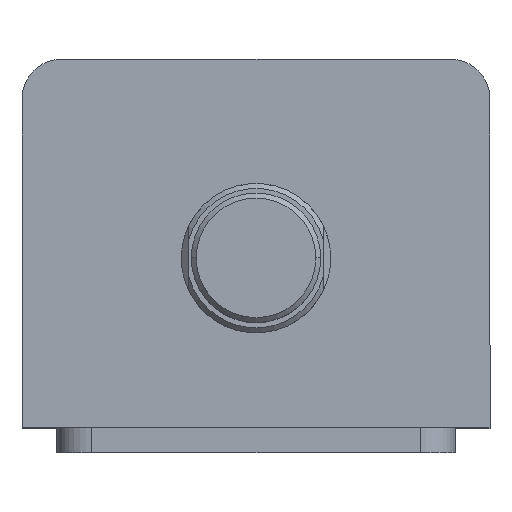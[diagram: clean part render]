
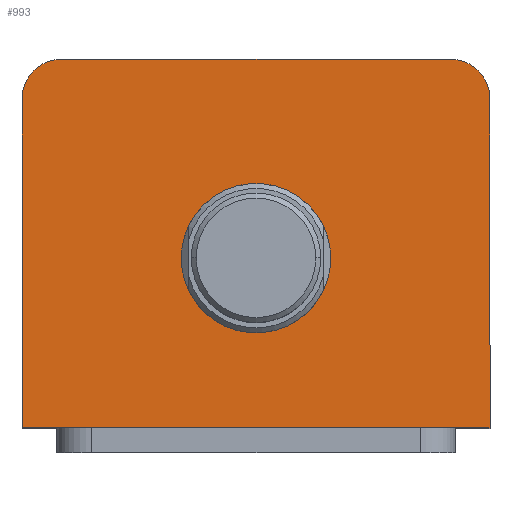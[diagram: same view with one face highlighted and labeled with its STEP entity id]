
A CAD part, top view. The second image highlights one B-rep face of the part: STEP entity #993.
In plain terms, the highlighted planar face has unit normal (0, 0, 1).
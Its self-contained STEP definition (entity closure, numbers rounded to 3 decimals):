
#147 = PLANE ( 'NONE',  #208 ) ;
#148 = CARTESIAN_POINT ( 'NONE',  ( 0., 0., 150. ) ) ;
#153 = DIRECTION ( 'NONE',  ( 1., 0., 0. ) ) ;
#154 = DIRECTION ( 'NONE',  ( 0., 0., 1. ) ) ;
#208 = AXIS2_PLACEMENT_3D ( 'NONE', #148, #154, #153 ) ;
#301 = AXIS2_PLACEMENT_3D ( 'NONE', #2230, #2229, #2221 ) ;
#321 = AXIS2_PLACEMENT_3D ( 'NONE', #1331, #1330, #1329 ) ;
#329 = AXIS2_PLACEMENT_3D ( 'NONE', #420, #421, #422 ) ;
#334 = AXIS2_PLACEMENT_3D ( 'NONE', #471, #472, #473 ) ;
#420 = CARTESIAN_POINT ( 'NONE',  ( -39., 29., 150. ) ) ;
#421 = DIRECTION ( 'NONE',  ( 0., 0., 1. ) ) ;
#422 = DIRECTION ( 'NONE',  ( 1., 0., 0. ) ) ;
#438 = CARTESIAN_POINT ( 'NONE',  ( -47., -37., 150. ) ) ;
#439 = DIRECTION ( 'NONE',  ( 1., 0., 0. ) ) ;
#454 = CARTESIAN_POINT ( 'NONE',  ( -47., 37., 150. ) ) ;
#455 = DIRECTION ( 'NONE',  ( 0., -1., 0. ) ) ;
#471 = CARTESIAN_POINT ( 'NONE',  ( 0., -3., 150. ) ) ;
#472 = DIRECTION ( 'NONE',  ( 0., 0., 1. ) ) ;
#473 = DIRECTION ( 'NONE',  ( 1., 0., 0. ) ) ;
#785 = CARTESIAN_POINT ( 'NONE',  ( 47., -37., 150. ) ) ;
#792 = CARTESIAN_POINT ( 'NONE',  ( -15., -3., 150. ) ) ;
#796 = CARTESIAN_POINT ( 'NONE',  ( 15., -3., 150. ) ) ;
#821 = CARTESIAN_POINT ( 'NONE',  ( 47., 29., 150. ) ) ;
#827 = CARTESIAN_POINT ( 'NONE',  ( 39., 37., 150. ) ) ;
#842 = CARTESIAN_POINT ( 'NONE',  ( -47., -37., 150. ) ) ;
#845 = CARTESIAN_POINT ( 'NONE',  ( -39., 37., 150. ) ) ;
#853 = CARTESIAN_POINT ( 'NONE',  ( -47., 29., 150. ) ) ;
#993 = ADVANCED_FACE ( 'NONE', ( #2031, #2026 ), #147, .T. ) ;
#1108 = EDGE_CURVE ( 'NONE', #2522, #2526, #1600, .T. ) ;
#1132 = EDGE_CURVE ( 'NONE', #2515, #2551, #1639, .T. ) ;
#1156 = EDGE_CURVE ( 'NONE', #2750, #2764, #1684, .T. ) ;
#1169 = EDGE_CURVE ( 'NONE', #2551, #2750, #1700, .T. ) ;
#1179 = EDGE_CURVE ( 'NONE', #2764, #2772, #1714, .T. ) ;
#1185 = EDGE_CURVE ( 'NONE', #2761, #2515, #1722, .T. ) ;
#1193 = EDGE_CURVE ( 'NONE', #2772, #2761, #1738, .T. ) ;
#1202 = EDGE_CURVE ( 'NONE', #2526, #2522, #1755, .T. ) ;
#1329 = DIRECTION ( 'NONE',  ( 1., 0., 0. ) ) ;
#1330 = DIRECTION ( 'NONE',  ( 0., 0., 1. ) ) ;
#1331 = CARTESIAN_POINT ( 'NONE',  ( 39., 29., 150. ) ) ;
#1600 = CIRCLE ( 'NONE', #301, 15. ) ;
#1639 = LINE ( 'NONE', #2201, #1642 ) ;
#1642 = VECTOR ( 'NONE', #2193, 1000. ) ;
#1684 = LINE ( 'NONE', #2124, #1687 ) ;
#1687 = VECTOR ( 'NONE', #2123, 1000. ) ;
#1700 = CIRCLE ( 'NONE', #321, 8. ) ;
#1714 = CIRCLE ( 'NONE', #329, 8. ) ;
#1722 = LINE ( 'NONE', #438, #1725 ) ;
#1725 = VECTOR ( 'NONE', #439, 1000. ) ;
#1738 = LINE ( 'NONE', #454, #1741 ) ;
#1741 = VECTOR ( 'NONE', #455, 1000. ) ;
#1755 = CIRCLE ( 'NONE', #334, 15. ) ;
#2026 = FACE_OUTER_BOUND ( 'NONE', #2840, .T. ) ;
#2031 = FACE_BOUND ( 'NONE', #2847, .T. ) ;
#2123 = DIRECTION ( 'NONE',  ( -1., 0., 0. ) ) ;
#2124 = CARTESIAN_POINT ( 'NONE',  ( -47., 37., 150. ) ) ;
#2193 = DIRECTION ( 'NONE',  ( 0., 1., 0. ) ) ;
#2201 = CARTESIAN_POINT ( 'NONE',  ( 47., 37., 150. ) ) ;
#2221 = DIRECTION ( 'NONE',  ( 1., 0., 0. ) ) ;
#2229 = DIRECTION ( 'NONE',  ( 0., 0., 1. ) ) ;
#2230 = CARTESIAN_POINT ( 'NONE',  ( 0., -3., 150. ) ) ;
#2515 = VERTEX_POINT ( 'NONE', #785 ) ;
#2522 = VERTEX_POINT ( 'NONE', #792 ) ;
#2526 = VERTEX_POINT ( 'NONE', #796 ) ;
#2551 = VERTEX_POINT ( 'NONE', #821 ) ;
#2699 = ORIENTED_EDGE ( 'NONE', *, *, #1169, .T. ) ;
#2700 = ORIENTED_EDGE ( 'NONE', *, *, #1132, .T. ) ;
#2701 = ORIENTED_EDGE ( 'NONE', *, *, #1185, .T. ) ;
#2702 = ORIENTED_EDGE ( 'NONE', *, *, #1193, .T. ) ;
#2703 = ORIENTED_EDGE ( 'NONE', *, *, #1179, .T. ) ;
#2704 = ORIENTED_EDGE ( 'NONE', *, *, #1156, .T. ) ;
#2705 = ORIENTED_EDGE ( 'NONE', *, *, #1108, .F. ) ;
#2706 = ORIENTED_EDGE ( 'NONE', *, *, #1202, .F. ) ;
#2750 = VERTEX_POINT ( 'NONE', #827 ) ;
#2761 = VERTEX_POINT ( 'NONE', #842 ) ;
#2764 = VERTEX_POINT ( 'NONE', #845 ) ;
#2772 = VERTEX_POINT ( 'NONE', #853 ) ;
#2840 = EDGE_LOOP ( 'NONE', ( #2704, #2703, #2702, #2701, #2700, #2699 ) ) ;
#2847 = EDGE_LOOP ( 'NONE', ( #2706, #2705 ) ) ;
